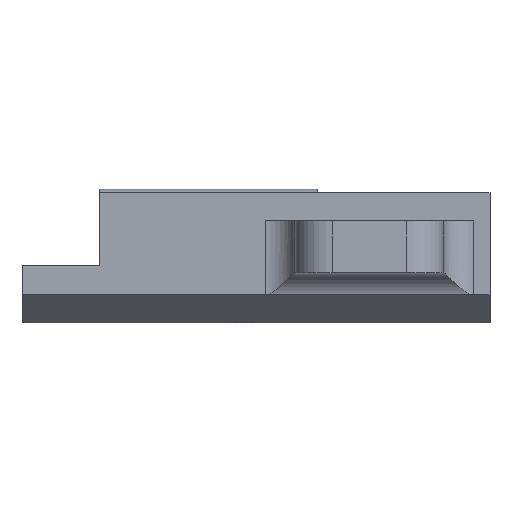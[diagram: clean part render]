
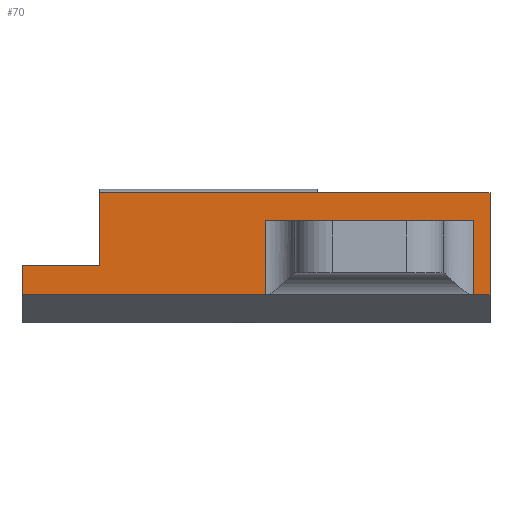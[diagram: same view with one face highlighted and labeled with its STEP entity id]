
A CAD part, front view. The second image highlights one B-rep face of the part: STEP entity #70.
In plain terms, the highlighted planar face has unit normal (0, -1, 0).
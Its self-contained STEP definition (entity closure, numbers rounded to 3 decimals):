
#70=ADVANCED_FACE('',(#208),#210,.T.);
#208=FACE_BOUND('',#209,.T.);
#209=EDGE_LOOP('',(#441,#442,#443,#444,#445,#446,#447,#448,#449,#450));
#210=PLANE('',#211);
#211=AXIS2_PLACEMENT_3D('',#212,#213,#214);
#212=CARTESIAN_POINT('',(-1.35,-0.16,-6.18));
#213=DIRECTION('',(0.,-1.,0.));
#214=DIRECTION('',(0.,0.,1.));
#441=ORIENTED_EDGE('',*,*,#598,.T.);
#442=ORIENTED_EDGE('',*,*,#575,.F.);
#443=ORIENTED_EDGE('',*,*,#560,.F.);
#444=ORIENTED_EDGE('',*,*,#599,.F.);
#445=ORIENTED_EDGE('',*,*,#600,.F.);
#446=ORIENTED_EDGE('',*,*,#601,.F.);
#447=ORIENTED_EDGE('',*,*,#558,.F.);
#448=ORIENTED_EDGE('',*,*,#556,.T.);
#449=ORIENTED_EDGE('',*,*,#596,.T.);
#450=ORIENTED_EDGE('',*,*,#602,.T.);
#556=EDGE_CURVE('',#669,#667,#670,.T.);
#558=EDGE_CURVE('',#669,#672,#673,.T.);
#560=EDGE_CURVE('',#674,#676,#677,.T.);
#575=EDGE_CURVE('',#676,#701,#702,.T.);
#596=EDGE_CURVE('',#667,#732,#734,.T.);
#598=EDGE_CURVE('',#736,#701,#737,.T.);
#599=EDGE_CURVE('',#738,#674,#739,.T.);
#600=EDGE_CURVE('',#740,#738,#741,.F.);
#601=EDGE_CURVE('',#672,#740,#742,.T.);
#602=EDGE_CURVE('',#732,#736,#743,.F.);
#667=VERTEX_POINT('',#862);
#669=VERTEX_POINT('',#866);
#670=LINE('',#867,#868);
#672=VERTEX_POINT('',#873);
#673=LINE('',#874,#875);
#674=VERTEX_POINT('',#877);
#676=VERTEX_POINT('',#881);
#677=LINE('',#882,#883);
#701=VERTEX_POINT('',#939);
#702=LINE('',#940,#941);
#732=VERTEX_POINT('',#1012);
#734=LINE('',#1016,#1017);
#736=VERTEX_POINT('',#1022);
#737=LINE('',#1023,#1024);
#738=VERTEX_POINT('',#1026);
#739=LINE('',#1027,#1028);
#740=VERTEX_POINT('',#1030);
#741=LINE('',#1031,#1032);
#742=LINE('',#1034,#1035);
#743=LINE('',#1037,#1038);
#862=CARTESIAN_POINT('',(-2.05,-0.16,-6.78));
#866=CARTESIAN_POINT('',(-2.05,-0.16,-9.525));
#867=CARTESIAN_POINT('',(-2.05,-0.16,-9.525));
#868=VECTOR('',#869,1.);
#869=DIRECTION('',(0.,0.,1.));
#873=CARTESIAN_POINT('',(-2.5,-0.16,-9.525));
#874=CARTESIAN_POINT('',(-2.05,-0.16,-9.525));
#875=VECTOR('',#876,1.);
#876=DIRECTION('',(-1.,0.,0.));
#877=CARTESIAN_POINT('',(-8.1,-0.16,-9.525));
#881=CARTESIAN_POINT('',(-14.65,-0.16,-9.525));
#882=CARTESIAN_POINT('',(-8.1,-0.16,-9.525));
#883=VECTOR('',#884,1.);
#884=DIRECTION('',(-1.,0.,0.));
#939=CARTESIAN_POINT('',(-14.65,-0.16,-8.73));
#940=CARTESIAN_POINT('',(-14.65,-0.16,-9.525));
#941=VECTOR('',#942,1.);
#942=DIRECTION('',(0.,0.,1.));
#1012=CARTESIAN_POINT('',(-12.55,-0.16,-6.78));
#1016=CARTESIAN_POINT('',(-2.05,-0.16,-6.78));
#1017=VECTOR('',#1018,1.);
#1018=DIRECTION('',(-1.,0.,0.));
#1022=CARTESIAN_POINT('',(-12.55,-0.16,-8.73));
#1023=CARTESIAN_POINT('',(-12.55,-0.16,-8.73));
#1024=VECTOR('',#1025,1.);
#1025=DIRECTION('',(-1.,0.,0.));
#1026=CARTESIAN_POINT('',(-8.1,-0.16,-7.53));
#1027=CARTESIAN_POINT('',(-8.1,-0.16,-7.53));
#1028=VECTOR('',#1029,1.);
#1029=DIRECTION('',(0.,0.,-1.));
#1030=CARTESIAN_POINT('',(-2.5,-0.16,-7.53));
#1031=CARTESIAN_POINT('',(-8.1,-0.16,-7.53));
#1032=VECTOR('',#1033,1.);
#1033=DIRECTION('',(1.,0.,0.));
#1034=CARTESIAN_POINT('',(-2.5,-0.16,-9.525));
#1035=VECTOR('',#1036,1.);
#1036=DIRECTION('',(0.,0.,1.));
#1037=CARTESIAN_POINT('',(-12.55,-0.16,-8.73));
#1038=VECTOR('',#1039,1.);
#1039=DIRECTION('',(0.,0.,1.));
